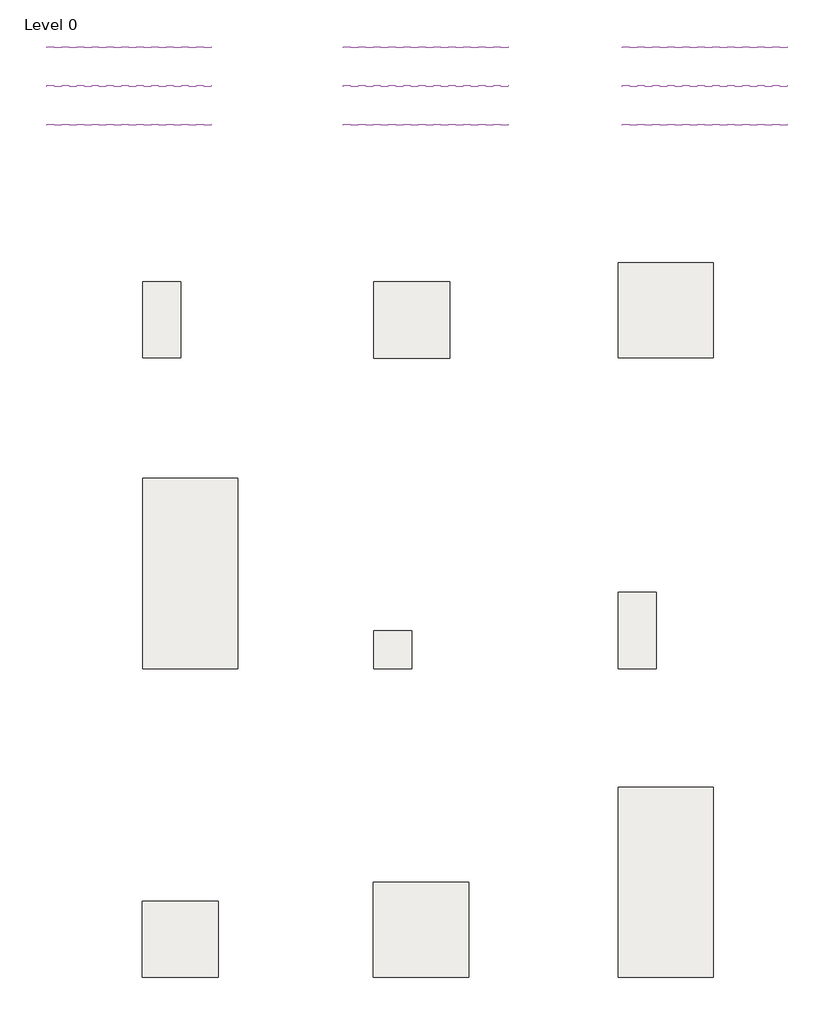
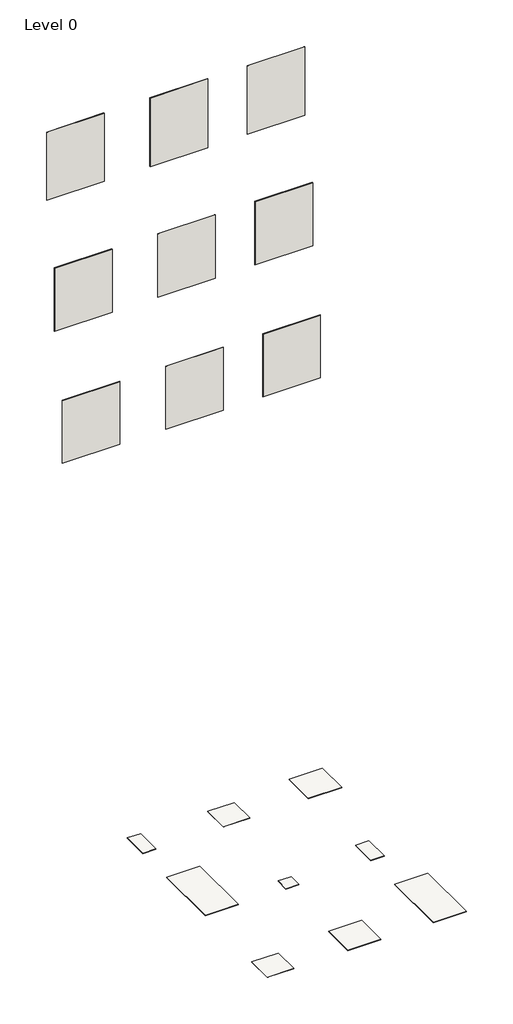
# One storey: 9 slabs, 9 walls.
"""IFC4 building model written with IfcOpenShell, lengths in millimetres."""

from ifc_helpers import new_model, si_unit, frame, origin, place, context, project, spatial, polyline, outline, extrude, element, save

model = new_model("IFC4")

# Units and contexts
model_context = context("Model", 3, world=origin())
ifc_project = project(units=[si_unit("LENGTHUNIT", "METRE", prefix="MILLI")], contexts=[model_context])

# Site, building, storey
site = spatial("IfcSite", under=ifc_project)
building = spatial("IfcBuilding", under=site)
storey = spatial("IfcBuildingStorey", under=building, Name="Level 0", Elevation=0.0)

# Slabs
placement = place(None, origin())
element("IfcSlab", 1, ObjectType="Floor_Tiles_Refin-Prestigio_Onyx-Grey-75x75 NZ82", at=placement, inside=storey, context=model_context, shape_type="SweptSolid", body=[
    extrude(outline(polyline([(11177.1861419, 6439.4623743), (11177.1861419, 5689.4623743), (10427.1861419, 5689.4623743), (10427.1861419, 6439.4623743), (11177.1861419, 6439.4623743)])), frame((0.0, 0.0, -10.0), z_axis=(0.0, 0.0, 1.0), x_axis=(1.0, 0.0, 0.0)), (0.0, 0.0, 1.0), 10.0),
])
element("IfcSlab", 2, ObjectType="Floor_Tiles_Refin-Prestigio_Onyx-Grey-30x60 NW02", at=placement, inside=storey, context=model_context, shape_type="SweptSolid", body=[
    extrude(outline(polyline([(6974.3752062, 6289.4623743), (6974.3752062, 5689.4623743), (6674.3752062, 5689.4623743), (6674.3752062, 6289.4623743), (6974.3752062, 6289.4623743)])), frame((0.0, 0.0, -10.0), z_axis=(0.0, 0.0, 1.0), x_axis=(1.0, 0.0, 0.0)), (0.0, 0.0, 1.0), 10.0),
])
element("IfcSlab", 3, ObjectType="Floor_Tiles_Refin-Prestigio_Onyx-Grey_Soft-30x60 NW05", at=placement, inside=storey, context=model_context, shape_type="SweptSolid", body=[
    extrude(outline(polyline([(10727.1861419, 3839.4623743), (10727.1861419, 3239.4623743), (10427.1861419, 3239.4623743), (10427.1861419, 3839.4623743), (10727.1861419, 3839.4623743)])), frame((0.0, 0.0, -10.0), z_axis=(0.0, 0.0, 1.0), x_axis=(1.0, 0.0, 0.0)), (0.0, 0.0, 1.0), 10.0),
])
element("IfcSlab", 4, ObjectType="Floor_Tiles_Refin-Prestigio_Onyx-Grey-30x30 NZ92", at=placement, inside=storey, context=model_context, shape_type="SweptSolid", body=[
    extrude(outline(polyline([(8797.3924055, 3539.4623743), (8797.3924055, 3239.4623743), (8497.3924055, 3239.4623743), (8497.3924055, 3539.4623743), (8797.3924055, 3539.4623743)])), frame((0.0, 0.0, -10.0), z_axis=(0.0, 0.0, 1.0), x_axis=(1.0, 0.0, 0.0)), (0.0, 0.0, 1.0), 10.0),
])
element("IfcSlab", 5, ObjectType="Floor_Tiles_Refin-Prestigio_Onyx-Grey-75x150 NV70", at=placement, inside=storey, context=model_context, shape_type="SweptSolid", body=[
    extrude(outline(polyline([(7424.3752062, 4739.4623743), (7424.3752062, 3239.4623743), (6674.3752062, 3239.4623743), (6674.3752062, 4739.4623743), (7424.3752062, 4739.4623743)])), frame((0.0, 0.0, -10.0), z_axis=(0.0, 0.0, 1.0), x_axis=(1.0, 0.0, 0.0)), (0.0, 0.0, 1.0), 10.0),
])
element("IfcSlab", 6, ObjectType="Floor_Tiles_Refin-Prestigio_Onyx-Grey_Soft-60x60 NZ99", at=placement, inside=storey, context=model_context, shape_type="SweptSolid", body=[
    extrude(outline(polyline([(7272.6009331, 1403.4367235), (7272.6009331, 803.4367235), (6672.6009331, 803.4367235), (6672.6009331, 1403.4367235), (7272.6009331, 1403.4367235)])), frame((0.0, 0.0, -10.0), z_axis=(0.0, 0.0, 1.0), x_axis=(1.0, 0.0, 0.0)), (0.0, 0.0, 1.0), 10.0),
])
element("IfcSlab", 7, ObjectType="Floor_Tiles_Refin-Prestigio_Onyx-Grey-60x60 NZ96", at=placement, inside=storey, context=model_context, shape_type="SweptSolid", body=[
    extrude(outline(polyline([(9097.3924055, 6288.4192064), (9097.3924055, 5688.4192064), (8497.3924055, 5688.4192064), (8497.3924055, 6288.4192064), (9097.3924055, 6288.4192064)])), frame((0.0, 0.0, -10.0), z_axis=(0.0, 0.0, 1.0), x_axis=(1.0, 0.0, 0.0)), (0.0, 0.0, 1.0), 10.0),
])
element("IfcSlab", 8, ObjectType="Floor_Tiles_Refin-Prestigio_Onyx-Grey_Soft-75x75 NZ85", at=placement, inside=storey, context=model_context, shape_type="SweptSolid", body=[
    extrude(outline(polyline([(9245.6181323, 1553.4367235), (9245.6181323, 803.4367235), (8495.6181323, 803.4367235), (8495.6181323, 1553.4367235), (9245.6181323, 1553.4367235)])), frame((0.0, 0.0, -10.0), z_axis=(0.0, 0.0, 1.0), x_axis=(1.0, 0.0, 0.0)), (0.0, 0.0, 1.0), 10.0),
])
element("IfcSlab", 9, ObjectType="Floor_Tiles_Refin-Prestigio_Onyx-Grey_Soft-75x150 NZ79", at=placement, inside=storey, context=model_context, shape_type="SweptSolid", body=[
    extrude(outline(polyline([(11175.4118688, 2303.4367235), (11175.4118688, 803.4367235), (10425.4118688, 803.4367235), (10425.4118688, 2303.4367235), (11175.4118688, 2303.4367235)])), frame((0.0, 0.0, -10.0), z_axis=(0.0, 0.0, 1.0), x_axis=(1.0, 0.0, 0.0)), (0.0, 0.0, 1.0), 10.0),
])

# Walls
element("IfcWall", 10, ObjectType="Wall_Tiles_Refin-Prestigio_Onyx-Grey-60x60 NZ96", at=placement, inside=storey, context=model_context, shape_type="SweptSolid", body=[
    extrude(outline(polyline([(9557.3752062, 8132.3838631), (8257.3752062, 8132.3838631), (8257.3752062, 8142.3838631), (9557.3752062, 8142.3838631), (9557.3752062, 8132.3838631)])), frame((0.0, 0.0, 14387.6770443), z_axis=(0.0, 0.0, 1.0), x_axis=(1.0, 0.0, 0.0)), (0.0, 0.0, 1.0), 1641.7417352),
])
element("IfcWall", 11, ObjectType="Wall_Tiles_Refin-Prestigio_Onyx-Grey-75x75 NZ82", at=placement, inside=storey, context=model_context, shape_type="SweptSolid", body=[
    extrude(outline(polyline([(11757.3752062, 8132.3838631), (10457.3752062, 8132.3838631), (10457.3752062, 8142.3838631), (11757.3752062, 8142.3838631), (11757.3752062, 8132.3838631)])), frame((0.0, 0.0, 14387.6770443), z_axis=(0.0, 0.0, 1.0), x_axis=(1.0, 0.0, 0.0)), (0.0, 0.0, 1.0), 1641.7417352),
])
element("IfcWall", 12, ObjectType="Wall_Tiles_Refin-Prestigio_Onyx-Grey-30x60 NW02", at=placement, inside=storey, context=model_context, shape_type="SweptSolid", body=[
    extrude(outline(polyline([(7217.3752062, 8132.3838631), (5917.3752062, 8132.3838631), (5917.3752062, 8142.3838631), (7217.3752062, 8142.3838631), (7217.3752062, 8132.3838631)])), frame((0.0, 0.0, 14403.7267346), z_axis=(0.0, 0.0, 1.0), x_axis=(1.0, 0.0, 0.0)), (0.0, 0.0, 1.0), 1625.692045),
])
element("IfcWall", 13, ObjectType="Wall_Tiles_Refin-Prestigio_Onyx-Grey-75x150 NV70", at=placement, inside=storey, context=model_context, shape_type="SweptSolid", body=[
    extrude(outline(polyline([(7217.3752062, 7827.3838631), (5917.3752062, 7827.3838631), (5917.3752062, 7837.3838631), (7217.3752062, 7837.3838631), (7217.3752062, 7827.3838631)])), frame((0.0, 0.0, 11452.5436262), z_axis=(0.0, 0.0, 1.0), x_axis=(1.0, 0.0, 0.0)), (0.0, 0.0, 1.0), 1513.1985566),
])
element("IfcWall", 14, ObjectType="Wall_Tiles_Refin-Prestigio_Onyx-Grey-30x30 NZ92", at=placement, inside=storey, context=model_context, shape_type="SweptSolid", body=[
    extrude(outline(polyline([(9557.3752062, 7827.3838631), (8257.3752062, 7827.3838631), (8257.3752062, 7837.3838631), (9557.3752062, 7837.3838631), (9557.3752062, 7827.3838631)])), frame((0.0, 0.0, 11452.5436262), z_axis=(0.0, 0.0, 1.0), x_axis=(1.0, 0.0, 0.0)), (0.0, 0.0, 1.0), 1513.1985566),
])
element("IfcWall", 15, ObjectType="Wall_Tiles_Refin-Prestigio_Onyx-Grey_Soft_30x60 NW05", at=placement, inside=storey, context=model_context, shape_type="SweptSolid", body=[
    extrude(outline(polyline([(11757.3752062, 7827.3838631), (10457.3752062, 7827.3838631), (10457.3752062, 7837.3838631), (11757.3752062, 7837.3838631), (11757.3752062, 7827.3838631)])), frame((0.0, 0.0, 11452.5436262), z_axis=(0.0, 0.0, 1.0), x_axis=(1.0, 0.0, 0.0)), (0.0, 0.0, 1.0), 1513.1985566),
])
element("IfcWall", 16, ObjectType="Wall_Tiles_Refin-Prestigio_Onyx-Grey_Soft_60x60 NZ99", at=placement, inside=storey, context=model_context, shape_type="SweptSolid", body=[
    extrude(outline(polyline([(7217.3752062, 7522.3838631), (5917.3752062, 7522.3838631), (5917.3752062, 7532.3838631), (7217.3752062, 7532.3838631), (7217.3752062, 7522.3838631)])), frame((0.0, 0.0, 8479.1027214), z_axis=(0.0, 0.0, 1.0), x_axis=(1.0, 0.0, 0.0)), (0.0, 0.0, 1.0), 1502.5740159),
])
element("IfcWall", 17, ObjectType="Wall_Tiles_Refin-Prestigio_Onyx-Grey_Soft_75x75 NZ85", at=placement, inside=storey, context=model_context, shape_type="SweptSolid", body=[
    extrude(outline(polyline([(9557.3752062, 7522.3838631), (8257.3752062, 7522.3838631), (8257.3752062, 7532.3838631), (9557.3752062, 7532.3838631), (9557.3752062, 7522.3838631)])), frame((0.0, 0.0, 8479.1027214), z_axis=(0.0, 0.0, 1.0), x_axis=(1.0, 0.0, 0.0)), (0.0, 0.0, 1.0), 1502.5740159),
])
element("IfcWall", 18, ObjectType="Wall_Tiles_Refin-Prestigio_Onyx-Grey_Soft_75x150 NZ79", at=placement, inside=storey, context=model_context, shape_type="SweptSolid", body=[
    extrude(outline(polyline([(11757.3752062, 7522.3838631), (10457.3752062, 7522.3838631), (10457.3752062, 7532.3838631), (11757.3752062, 7532.3838631), (11757.3752062, 7522.3838631)])), frame((0.0, 0.0, 8479.1027214), z_axis=(0.0, 0.0, 1.0), x_axis=(1.0, 0.0, 0.0)), (0.0, 0.0, 1.0), 1502.5740159),
])

save(model, "model.ifc")
